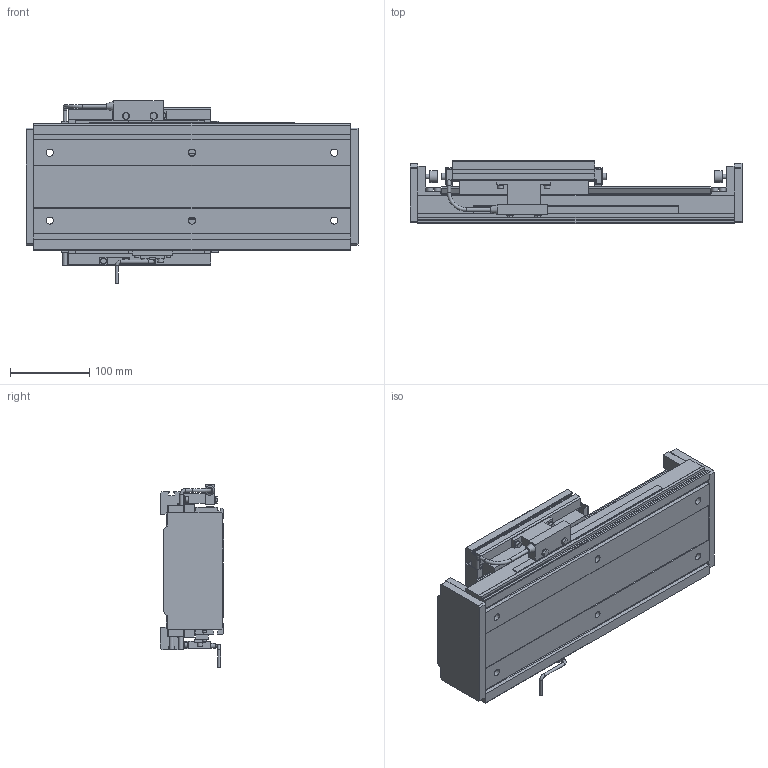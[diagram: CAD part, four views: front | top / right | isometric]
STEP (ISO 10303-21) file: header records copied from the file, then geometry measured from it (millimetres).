
FILE_DESCRIPTION(/* description */ ('STEP AP214'),/* implementation_level */ '2;1');
FILE_NAME(/* name */ 'GLM20AP-S-0130-G10K-N-TDP20-N-N-N-UL-03_100',/* time_stamp */ '2025-09-17T19:27:46+02:00',/* author */ ('License CC BY-ND 4.0'),/* organization */ ('CADENAS'),/* preprocessor_version */ 'ST-DEVELOPER v19.3',/* originating_system */ 'PARTsolutions',/* authorisation */ ' ');
FILE_SCHEMA (('AUTOMOTIVE_DESIGN {1 0 10303 214 3 1 1}'));
Length unit declared in the file: millimetre
Products named in the file (4): GLM20AP-S-0130-G10K-N-TDP20-N-N-N-UL-03_100; Body 400130SG10K100; Slider S180NG10KNN; Magnet sensor
Assembly tree (3 placements, depth 2):
  GLM20AP-S-0130-G10K-N-TDP20-N-N-N-UL-03_100
    Body 400130SG10K100
    Slider S180NG10KNN
    Magnet sensor
Bounding box: 420 x 80 x 231.5 mm (x, y, z)
Volume: 2903175.9 mm3; surface area: 496248.4 mm2
Topology: 3 solids, 3 shells, 534 faces, 1384 edges, 909 vertices
Faces by surface type: plane 451, cylinder 70, cone 9, torus 4
Full cylindrical faces by diameter (mm): 2.9 x1, 3 x1, 3.8 x2, 4.5 x3, 5.5 x4, 6 x5, 6.647 x4, 7 x6, 8 x4, 8.5 x12, 9 x8, 14 x6, 15 x4
Entity records: 15647 total; most frequent: CARTESIAN_POINT 2720, ORIENTED_EDGE 2580, DIRECTION 2514, EDGE_CURVE 1290, LINE 1142, VECTOR 1142, VERTEX_POINT 892, AXIS2_PLACEMENT_3D 686
